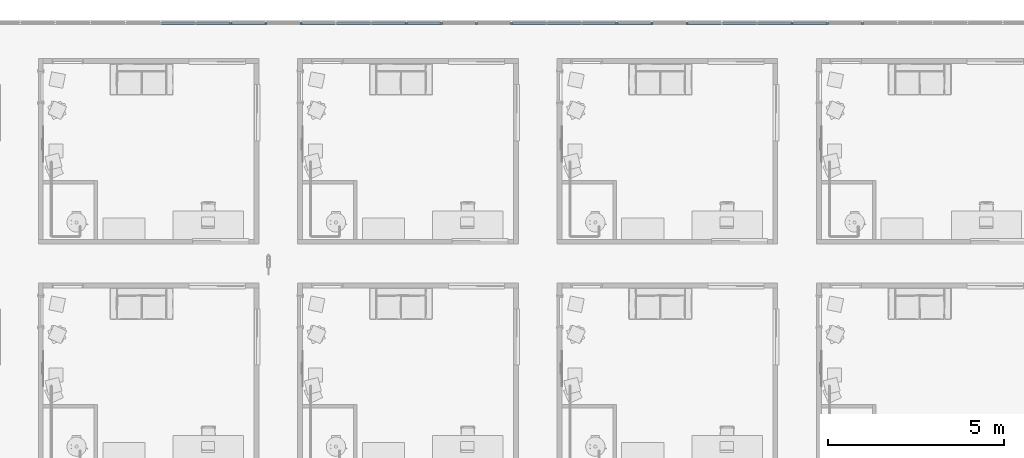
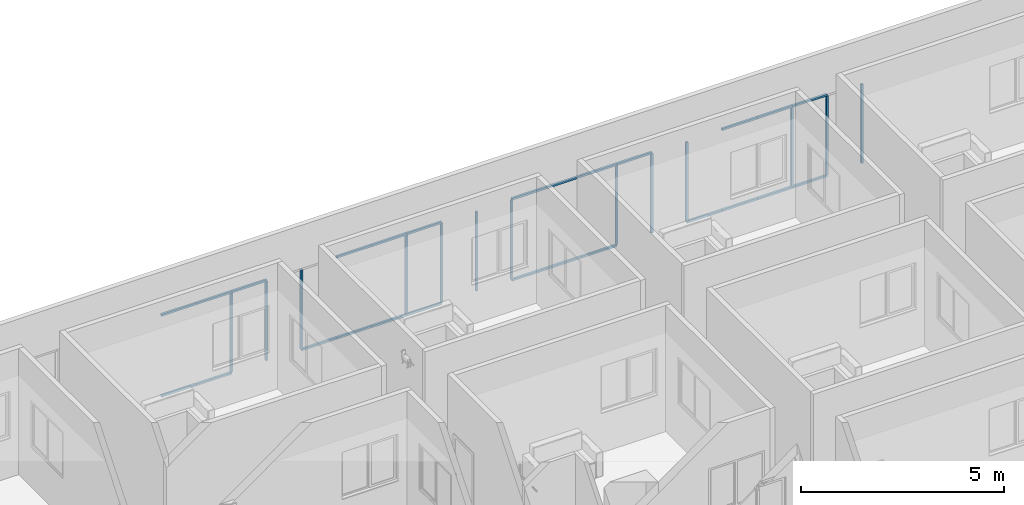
# One storey, part 3 of 69: 39 members, 1 element without a shape of its own.
"""IFC4 building model written with IfcOpenShell, lengths in centimetres."""

from ifc_helpers import new_model, entity, si_unit, converted_unit, derived_unit, direction, frame, origin, place, context, subcontext, project, spatial, indexed_curve, outline, extrude, source, transform, mapped, material, type_object, type_shapes, element, aggregate, save


model = new_model("IFC4")

# Units and contexts
model_context = context("Model", 3, precision=0.001, world=origin(), true_north=direction((6.123233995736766e-17, 1.0)))
body_context = subcontext(model_context, "Body", "Model", "MODEL_VIEW")
ifc_project = project(units=[si_unit("LENGTHUNIT", "METRE", prefix="CENTI"), si_unit("AREAUNIT", "SQUARE_METRE"), si_unit("VOLUMEUNIT", "CUBIC_METRE"), derived_unit("THERMALTRANSMITTANCEUNIT", [(si_unit("MASSUNIT", "GRAM", prefix="KILO"), 1), (si_unit("THERMODYNAMICTEMPERATUREUNIT", "KELVIN"), -1), (si_unit("TIMEUNIT", "SECOND"), -3)]), converted_unit("PLANEANGLEUNIT", "DEGREE", entity("IfcPlaneAngleMeasure", 0.017453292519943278), si_unit("PLANEANGLEUNIT", "RADIAN"), dimensions=[0, 0, 0, 0, 0, 0, 0]), derived_unit("MASSDENSITYUNIT", [(si_unit("MASSUNIT", "GRAM", prefix="KILO"), 1), (si_unit("LENGTHUNIT", "METRE"), -3)]), derived_unit("VAPORPERMEABILITYUNIT", [(si_unit("LENGTHUNIT", "METRE"), -1), (si_unit("TIMEUNIT", "SECOND"), 1)]), derived_unit("USERDEFINED", [(si_unit("MASSUNIT", "GRAM", prefix="KILO"), 1), (si_unit("TIMEUNIT", "SECOND"), -3), (si_unit("LENGTHUNIT", "METRE"), 3), (si_unit("ELECTRICCURRENTUNIT", "AMPERE"), -2)]), derived_unit("SPECIFICHEATCAPACITYUNIT", [(si_unit("THERMODYNAMICTEMPERATUREUNIT", "KELVIN"), -1), (si_unit("LENGTHUNIT", "METRE"), 2), (si_unit("TIMEUNIT", "SECOND"), -2)]), derived_unit("THERMALCONDUCTANCEUNIT", [(si_unit("MASSUNIT", "GRAM", prefix="KILO"), 1), (si_unit("THERMODYNAMICTEMPERATUREUNIT", "KELVIN"), -1), (si_unit("TIMEUNIT", "SECOND"), -3), (si_unit("LENGTHUNIT", "METRE"), 1)]), si_unit("PRESSUREUNIT", "PASCAL"), derived_unit("MODULUSOFELASTICITYUNIT", [(si_unit("MASSUNIT", "GRAM", prefix="KILO"), 1), (si_unit("LENGTHUNIT", "METRE"), -1), (si_unit("TIMEUNIT", "SECOND"), -2)]), derived_unit("THERMALEXPANSIONCOEFFICIENTUNIT", [(si_unit("THERMODYNAMICTEMPERATUREUNIT", "KELVIN"), -1)])], contexts=[model_context])

# Site, building, storey
site_placement = place(None, origin())
site = spatial("IfcSite", under=ifc_project, at=site_placement, Name="Default", CompositionType="ELEMENT")
building_placement = place(site_placement, origin())
building = spatial("IfcBuilding", under=site, at=building_placement, Name="IDS Escape Game Building", CompositionType="ELEMENT")
storey_placement = place(building_placement, origin())
storey = spatial("IfcBuildingStorey", under=building, at=storey_placement, Name="00_Ground Floor", CompositionType="ELEMENT", Elevation=0.0)

# Curtain wall, members
curtain_wall_type = type_object("IfcCurtainWallType", Name="Curtain Wall:ARC_31.3_CWA_LIB_bandraam vast 100cm - profiel 60x60_gen_BERSnl", PredefinedType="NOTDEFINED")
curtain_wall_placement = place(storey_placement, origin())
curtain_wall = element("IfcCurtainWall", 1, at=curtain_wall_placement, inside=storey, type_object=curtain_wall_type, Name="Curtain Wall:ARC_31.3_CWA_LIB_bandraam vast 100cm - profiel 60x60_gen_BERSnl", ObjectType="Curtain Wall:ARC_31.3_CWA_LIB_bandraam vast 100cm - profiel 60x60_gen_BERSnl", PredefinedType="NOTDEFINED")
ifc_material = material(Name="<Unnamed>")
member_type_1 = type_object("IfcMemberType", Name="Rectangular Mullion:30-_Stijl_Rechthoek_Midden_B60xD60", PredefinedType="MULLION", material=ifc_material)
shared_shape_1 = source(origin(), body_context, "Body", "SweptSolid", [
    extrude(outline(indexed_curve([(-3.0, -3.0), (3.0, -3.0), (3.0, 3.0), (-3.0, 3.0), (-3.0, -3.0)], self_intersect=False)), frame((-3.0, 3.0, -99.84313725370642), z_axis=(0.0, 0.0, 1.0), x_axis=(-1.0, 0.0, 0.0)), (0.0, 0.0, 1.0), 99.84313725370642),
])
type_shapes(member_type_1, [shared_shape_1])
member_1_placement = place(curtain_wall_placement, frame((1916.8627451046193, 3182.0, 250.0), z_axis=(1.0, 0.0, 0.0), x_axis=(0.0, 0.0, 1.0)))
member_1 = element("IfcMember", 2, at=member_1_placement, type_object=member_type_1, material=ifc_material, Name="Rectangular Mullion:30-_Stijl_Rechthoek_Midden_B60xD60", ObjectType="Rectangular Mullion:30-_Stijl_Rechthoek_Midden_B60xD60", PredefinedType="MULLION", context=body_context, shape_type="MappedRepresentation", body=[
    mapped(shared_shape_1, transform((0.0, 0.0, 0.0), scale=1.0)),
])
member_2_placement = place(curtain_wall_placement, frame((2016.7058823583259, 3182.0, 250.0), z_axis=(1.0, 0.0, 0.0), x_axis=(0.0, 0.0, 1.0)))
member_2 = element("IfcMember", 3, at=member_2_placement, type_object=member_type_1, material=ifc_material, Name="Rectangular Mullion:30-_Stijl_Rechthoek_Midden_B60xD60", ObjectType="Rectangular Mullion:30-_Stijl_Rechthoek_Midden_B60xD60", PredefinedType="MULLION", context=body_context, shape_type="MappedRepresentation", body=[
    mapped(shared_shape_1, transform((0.0, 0.0, 0.0), scale=1.0)),
])
member_3_placement = place(curtain_wall_placement, frame((2116.549019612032, 3182.0, 250.0), z_axis=(1.0, 0.0, 0.0), x_axis=(0.0, 0.0, 1.0)))
member_3 = element("IfcMember", 4, at=member_3_placement, type_object=member_type_1, material=ifc_material, Name="Rectangular Mullion:30-_Stijl_Rechthoek_Midden_B60xD60", ObjectType="Rectangular Mullion:30-_Stijl_Rechthoek_Midden_B60xD60", PredefinedType="MULLION", context=body_context, shape_type="MappedRepresentation", body=[
    mapped(shared_shape_1, transform((0.0, 0.0, 0.0), scale=1.0)),
])
member_4_placement = place(curtain_wall_placement, frame((2416.0784313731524, 3182.0, 250.0), z_axis=(1.0, 0.0, 0.0), x_axis=(0.0, 0.0, 1.0)))
member_4 = element("IfcMember", 5, at=member_4_placement, type_object=member_type_1, material=ifc_material, Name="Rectangular Mullion:30-_Stijl_Rechthoek_Midden_B60xD60", ObjectType="Rectangular Mullion:30-_Stijl_Rechthoek_Midden_B60xD60", PredefinedType="MULLION", context=body_context, shape_type="MappedRepresentation", body=[
    mapped(shared_shape_1, transform((0.0, 0.0, 0.0), scale=1.0)),
])
member_5_placement = place(curtain_wall_placement, frame((2515.9215686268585, 3182.0, 250.0), z_axis=(1.0, 0.0, 0.0), x_axis=(0.0, 0.0, 1.0)))
member_5 = element("IfcMember", 6, at=member_5_placement, type_object=member_type_1, material=ifc_material, Name="Rectangular Mullion:30-_Stijl_Rechthoek_Midden_B60xD60", ObjectType="Rectangular Mullion:30-_Stijl_Rechthoek_Midden_B60xD60", PredefinedType="MULLION", context=body_context, shape_type="MappedRepresentation", body=[
    mapped(shared_shape_1, transform((0.0, 0.0, 0.0), scale=1.0)),
])
member_6_placement = place(curtain_wall_placement, frame((2615.764705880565, 3182.0, 250.0), z_axis=(1.0, 0.0, 0.0), x_axis=(0.0, 0.0, 1.0)))
member_6 = element("IfcMember", 7, at=member_6_placement, type_object=member_type_1, material=ifc_material, Name="Rectangular Mullion:30-_Stijl_Rechthoek_Midden_B60xD60", ObjectType="Rectangular Mullion:30-_Stijl_Rechthoek_Midden_B60xD60", PredefinedType="MULLION", context=body_context, shape_type="MappedRepresentation", body=[
    mapped(shared_shape_1, transform((0.0, 0.0, 0.0), scale=1.0)),
])
member_7_placement = place(curtain_wall_placement, frame((2915.294117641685, 3182.0, 250.0), z_axis=(1.0, 0.0, 0.0), x_axis=(0.0, 0.0, 1.0)))
member_7 = element("IfcMember", 8, at=member_7_placement, type_object=member_type_1, material=ifc_material, Name="Rectangular Mullion:30-_Stijl_Rechthoek_Midden_B60xD60", ObjectType="Rectangular Mullion:30-_Stijl_Rechthoek_Midden_B60xD60", PredefinedType="MULLION", context=body_context, shape_type="MappedRepresentation", body=[
    mapped(shared_shape_1, transform((0.0, 0.0, 0.0), scale=1.0)),
])
member_8_placement = place(curtain_wall_placement, frame((3015.1372548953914, 3182.0, 250.0), z_axis=(1.0, 0.0, 0.0), x_axis=(0.0, 0.0, 1.0)))
member_8 = element("IfcMember", 9, at=member_8_placement, type_object=member_type_1, material=ifc_material, Name="Rectangular Mullion:30-_Stijl_Rechthoek_Midden_B60xD60", ObjectType="Rectangular Mullion:30-_Stijl_Rechthoek_Midden_B60xD60", PredefinedType="MULLION", context=body_context, shape_type="MappedRepresentation", body=[
    mapped(shared_shape_1, transform((0.0, 0.0, 0.0), scale=1.0)),
])
member_9_placement = place(curtain_wall_placement, frame((3114.9803921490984, 3182.0, 250.0), z_axis=(1.0, 0.0, 0.0), x_axis=(0.0, 0.0, 1.0)))
member_9 = element("IfcMember", 10, at=member_9_placement, type_object=member_type_1, material=ifc_material, Name="Rectangular Mullion:30-_Stijl_Rechthoek_Midden_B60xD60", ObjectType="Rectangular Mullion:30-_Stijl_Rechthoek_Midden_B60xD60", PredefinedType="MULLION", context=body_context, shape_type="MappedRepresentation", body=[
    mapped(shared_shape_1, transform((0.0, 0.0, 0.0), scale=1.0)),
])
member_10_placement = place(curtain_wall_placement, frame((3214.8235294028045, 3182.0, 250.0), z_axis=(1.0, 0.0, 0.0), x_axis=(0.0, 0.0, 1.0)))
member_10 = element("IfcMember", 11, at=member_10_placement, type_object=member_type_1, material=ifc_material, Name="Rectangular Mullion:30-_Stijl_Rechthoek_Midden_B60xD60", ObjectType="Rectangular Mullion:30-_Stijl_Rechthoek_Midden_B60xD60", PredefinedType="MULLION", context=body_context, shape_type="MappedRepresentation", body=[
    mapped(shared_shape_1, transform((0.0, 0.0, 0.0), scale=1.0)),
])
member_11_placement = place(curtain_wall_placement, frame((3514.3529411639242, 3182.0, 250.0), z_axis=(1.0, 0.0, 0.0), x_axis=(0.0, 0.0, 1.0)))
member_11 = element("IfcMember", 12, at=member_11_placement, type_object=member_type_1, material=ifc_material, Name="Rectangular Mullion:30-_Stijl_Rechthoek_Midden_B60xD60", ObjectType="Rectangular Mullion:30-_Stijl_Rechthoek_Midden_B60xD60", PredefinedType="MULLION", context=body_context, shape_type="MappedRepresentation", body=[
    mapped(shared_shape_1, transform((0.0, 0.0, 0.0), scale=1.0)),
])
member_12_placement = place(curtain_wall_placement, frame((3614.196078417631, 3182.0, 250.0), z_axis=(1.0, 0.0, 0.0), x_axis=(0.0, 0.0, 1.0)))
member_12 = element("IfcMember", 13, at=member_12_placement, type_object=member_type_1, material=ifc_material, Name="Rectangular Mullion:30-_Stijl_Rechthoek_Midden_B60xD60", ObjectType="Rectangular Mullion:30-_Stijl_Rechthoek_Midden_B60xD60", PredefinedType="MULLION", context=body_context, shape_type="MappedRepresentation", body=[
    mapped(shared_shape_1, transform((0.0, 0.0, 0.0), scale=1.0)),
])
member_13_placement = place(curtain_wall_placement, frame((3714.0392156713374, 3182.0, 250.0), z_axis=(1.0, 0.0, 0.0), x_axis=(0.0, 0.0, 1.0)))
member_13 = element("IfcMember", 14, at=member_13_placement, type_object=member_type_1, material=ifc_material, Name="Rectangular Mullion:30-_Stijl_Rechthoek_Midden_B60xD60", ObjectType="Rectangular Mullion:30-_Stijl_Rechthoek_Midden_B60xD60", PredefinedType="MULLION", context=body_context, shape_type="MappedRepresentation", body=[
    mapped(shared_shape_1, transform((0.0, 0.0, 0.0), scale=1.0)),
])
member_type_2 = type_object("IfcMemberType", Name="Rectangular Mullion:30-_Stijl_Rechthoek_Midden_B60xD60", PredefinedType="MULLION", material=ifc_material)
shared_shape_2 = source(origin(), body_context, "Body", "SweptSolid", [
    extrude(outline(indexed_curve([(-3.0, -3.0), (3.0, -3.0), (3.0, 3.0), (-3.0, 3.0), (-3.0, -3.0)], self_intersect=False)), frame((-3.0, 3.0, -99.84313725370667), z_axis=(0.0, 0.0, 1.0), x_axis=(-1.0, 0.0, 0.0)), (0.0, 0.0, 1.0), 99.84313725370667),
])
type_shapes(member_type_2, [shared_shape_2])
member_14_placement = place(curtain_wall_placement, frame((1817.0196078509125, 3182.0, 0.0), z_axis=(-1.0, 0.0, 0.0), x_axis=(0.0, 0.0, -1.0)))
member_14 = element("IfcMember", 15, at=member_14_placement, type_object=member_type_2, material=ifc_material, Name="Rectangular Mullion:30-_Stijl_Rechthoek_Midden_B60xD60", ObjectType="Rectangular Mullion:30-_Stijl_Rechthoek_Midden_B60xD60", PredefinedType="MULLION", context=body_context, shape_type="MappedRepresentation", body=[
    mapped(shared_shape_2, transform((0.0, 0.0, 0.0), scale=1.0)),
])
member_15_placement = place(curtain_wall_placement, frame((1916.8627451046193, 3182.0, 0.0), z_axis=(-1.0, 0.0, 0.0), x_axis=(0.0, 0.0, -1.0)))
member_15 = element("IfcMember", 16, at=member_15_placement, type_object=member_type_2, material=ifc_material, Name="Rectangular Mullion:30-_Stijl_Rechthoek_Midden_B60xD60", ObjectType="Rectangular Mullion:30-_Stijl_Rechthoek_Midden_B60xD60", PredefinedType="MULLION", context=body_context, shape_type="MappedRepresentation", body=[
    mapped(shared_shape_2, transform((0.0, 0.0, 0.0), scale=1.0)),
])
member_16_placement = place(curtain_wall_placement, frame((2216.3921568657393, 3182.0, 0.0), z_axis=(-1.0, 0.0, 0.0), x_axis=(0.0, 0.0, -1.0)))
member_16 = element("IfcMember", 17, at=member_16_placement, type_object=member_type_2, material=ifc_material, Name="Rectangular Mullion:30-_Stijl_Rechthoek_Midden_B60xD60", ObjectType="Rectangular Mullion:30-_Stijl_Rechthoek_Midden_B60xD60", PredefinedType="MULLION", context=body_context, shape_type="MappedRepresentation", body=[
    mapped(shared_shape_2, transform((0.0, 0.0, 0.0), scale=1.0)),
])
member_17_placement = place(curtain_wall_placement, frame((2316.235294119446, 3182.0, 0.0), z_axis=(-1.0, 0.0, 0.0), x_axis=(0.0, 0.0, -1.0)))
member_17 = element("IfcMember", 18, at=member_17_placement, type_object=member_type_2, material=ifc_material, Name="Rectangular Mullion:30-_Stijl_Rechthoek_Midden_B60xD60", ObjectType="Rectangular Mullion:30-_Stijl_Rechthoek_Midden_B60xD60", PredefinedType="MULLION", context=body_context, shape_type="MappedRepresentation", body=[
    mapped(shared_shape_2, transform((0.0, 0.0, 0.0), scale=1.0)),
])
member_18_placement = place(curtain_wall_placement, frame((2416.0784313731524, 3182.0, 0.0), z_axis=(-1.0, 0.0, 0.0), x_axis=(0.0, 0.0, -1.0)))
member_18 = element("IfcMember", 19, at=member_18_placement, type_object=member_type_2, material=ifc_material, Name="Rectangular Mullion:30-_Stijl_Rechthoek_Midden_B60xD60", ObjectType="Rectangular Mullion:30-_Stijl_Rechthoek_Midden_B60xD60", PredefinedType="MULLION", context=body_context, shape_type="MappedRepresentation", body=[
    mapped(shared_shape_2, transform((0.0, 0.0, 0.0), scale=1.0)),
])
member_19_placement = place(curtain_wall_placement, frame((2515.9215686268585, 3182.0, 0.0), z_axis=(-1.0, 0.0, 0.0), x_axis=(0.0, 0.0, -1.0)))
member_19 = element("IfcMember", 20, at=member_19_placement, type_object=member_type_2, material=ifc_material, Name="Rectangular Mullion:30-_Stijl_Rechthoek_Midden_B60xD60", ObjectType="Rectangular Mullion:30-_Stijl_Rechthoek_Midden_B60xD60", PredefinedType="MULLION", context=body_context, shape_type="MappedRepresentation", body=[
    mapped(shared_shape_2, transform((0.0, 0.0, 0.0), scale=1.0)),
])
member_20_placement = place(curtain_wall_placement, frame((2815.4509803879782, 3182.0, 0.0), z_axis=(-1.0, 0.0, 0.0), x_axis=(0.0, 0.0, -1.0)))
member_20 = element("IfcMember", 21, at=member_20_placement, type_object=member_type_2, material=ifc_material, Name="Rectangular Mullion:30-_Stijl_Rechthoek_Midden_B60xD60", ObjectType="Rectangular Mullion:30-_Stijl_Rechthoek_Midden_B60xD60", PredefinedType="MULLION", context=body_context, shape_type="MappedRepresentation", body=[
    mapped(shared_shape_2, transform((0.0, 0.0, 0.0), scale=1.0)),
])
member_21_placement = place(curtain_wall_placement, frame((2915.294117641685, 3182.0, 0.0), z_axis=(-1.0, 0.0, 0.0), x_axis=(0.0, 0.0, -1.0)))
member_21 = element("IfcMember", 22, at=member_21_placement, type_object=member_type_2, material=ifc_material, Name="Rectangular Mullion:30-_Stijl_Rechthoek_Midden_B60xD60", ObjectType="Rectangular Mullion:30-_Stijl_Rechthoek_Midden_B60xD60", PredefinedType="MULLION", context=body_context, shape_type="MappedRepresentation", body=[
    mapped(shared_shape_2, transform((0.0, 0.0, 0.0), scale=1.0)),
])
member_22_placement = place(curtain_wall_placement, frame((3015.1372548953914, 3182.0, 0.0), z_axis=(-1.0, 0.0, 0.0), x_axis=(0.0, 0.0, -1.0)))
member_22 = element("IfcMember", 23, at=member_22_placement, type_object=member_type_2, material=ifc_material, Name="Rectangular Mullion:30-_Stijl_Rechthoek_Midden_B60xD60", ObjectType="Rectangular Mullion:30-_Stijl_Rechthoek_Midden_B60xD60", PredefinedType="MULLION", context=body_context, shape_type="MappedRepresentation", body=[
    mapped(shared_shape_2, transform((0.0, 0.0, 0.0), scale=1.0)),
])
member_23_placement = place(curtain_wall_placement, frame((3314.666666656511, 3182.0, 0.0), z_axis=(-1.0, 0.0, 0.0), x_axis=(0.0, 0.0, -1.0)))
member_23 = element("IfcMember", 24, at=member_23_placement, type_object=member_type_2, material=ifc_material, Name="Rectangular Mullion:30-_Stijl_Rechthoek_Midden_B60xD60", ObjectType="Rectangular Mullion:30-_Stijl_Rechthoek_Midden_B60xD60", PredefinedType="MULLION", context=body_context, shape_type="MappedRepresentation", body=[
    mapped(shared_shape_2, transform((0.0, 0.0, 0.0), scale=1.0)),
])
member_24_placement = place(curtain_wall_placement, frame((3414.5098039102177, 3182.0, 0.0), z_axis=(-1.0, 0.0, 0.0), x_axis=(0.0, 0.0, -1.0)))
member_24 = element("IfcMember", 25, at=member_24_placement, type_object=member_type_2, material=ifc_material, Name="Rectangular Mullion:30-_Stijl_Rechthoek_Midden_B60xD60", ObjectType="Rectangular Mullion:30-_Stijl_Rechthoek_Midden_B60xD60", PredefinedType="MULLION", context=body_context, shape_type="MappedRepresentation", body=[
    mapped(shared_shape_2, transform((0.0, 0.0, 0.0), scale=1.0)),
])
member_25_placement = place(curtain_wall_placement, frame((3514.3529411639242, 3182.0, 0.0), z_axis=(-1.0, 0.0, 0.0), x_axis=(0.0, 0.0, -1.0)))
member_25 = element("IfcMember", 26, at=member_25_placement, type_object=member_type_2, material=ifc_material, Name="Rectangular Mullion:30-_Stijl_Rechthoek_Midden_B60xD60", ObjectType="Rectangular Mullion:30-_Stijl_Rechthoek_Midden_B60xD60", PredefinedType="MULLION", context=body_context, shape_type="MappedRepresentation", body=[
    mapped(shared_shape_2, transform((0.0, 0.0, 0.0), scale=1.0)),
])
member_26_placement = place(curtain_wall_placement, frame((3614.196078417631, 3182.0, 0.0), z_axis=(-1.0, 0.0, 0.0), x_axis=(0.0, 0.0, -1.0)))
member_26 = element("IfcMember", 27, at=member_26_placement, type_object=member_type_2, material=ifc_material, Name="Rectangular Mullion:30-_Stijl_Rechthoek_Midden_B60xD60", ObjectType="Rectangular Mullion:30-_Stijl_Rechthoek_Midden_B60xD60", PredefinedType="MULLION", context=body_context, shape_type="MappedRepresentation", body=[
    mapped(shared_shape_2, transform((0.0, 0.0, 0.0), scale=1.0)),
])
member_type_3 = type_object("IfcMemberType", Name="Rectangular Mullion:30-_Stijl_Rechthoek_Midden_B60xD60", PredefinedType="MULLION", material=ifc_material)
shared_shape_3 = source(origin(), body_context, "Body", "SweptSolid", [
    extrude(outline(indexed_curve([(-3.0, -3.0), (3.0, -3.0), (3.0, 3.0), (-3.0, 3.0), (-3.0, -3.0)], self_intersect=False)), frame((0.0, 3.0, -238.0), z_axis=(0.0, 0.0, 1.0), x_axis=(-1.0, 0.0, 0.0)), (0.0, 0.0, 1.0), 238.00000000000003),
])
type_shapes(member_type_3, [shared_shape_3])
member_27_placement = place(curtain_wall_placement, frame((2016.7058823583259, 3182.0, 6.0), z_axis=(0.0, 0.0, -1.0), x_axis=(1.0, 0.0, 0.0)))
member_27 = element("IfcMember", 28, at=member_27_placement, type_object=member_type_3, material=ifc_material, Name="Rectangular Mullion:30-_Stijl_Rechthoek_Midden_B60xD60", ObjectType="Rectangular Mullion:30-_Stijl_Rechthoek_Midden_B60xD60", PredefinedType="MULLION", context=body_context, shape_type="MappedRepresentation", body=[
    mapped(shared_shape_3, transform((0.0, 0.0, 0.0), scale=1.0)),
])
member_28_placement = place(curtain_wall_placement, frame((2116.5490196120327, 3182.0, 6.0), z_axis=(0.0, 0.0, -1.0), x_axis=(1.0, 0.0, 0.0)))
member_28 = element("IfcMember", 29, at=member_28_placement, type_object=member_type_3, material=ifc_material, Name="Rectangular Mullion:30-_Stijl_Rechthoek_Midden_B60xD60", ObjectType="Rectangular Mullion:30-_Stijl_Rechthoek_Midden_B60xD60", PredefinedType="MULLION", context=body_context, shape_type="MappedRepresentation", body=[
    mapped(shared_shape_3, transform((0.0, 0.0, 0.0), scale=1.0)),
])
member_29_placement = place(curtain_wall_placement, frame((2216.3921568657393, 3182.0, 6.0), z_axis=(0.0, 0.0, -1.0), x_axis=(1.0, 0.0, 0.0)))
member_29 = element("IfcMember", 30, at=member_29_placement, type_object=member_type_3, material=ifc_material, Name="Rectangular Mullion:30-_Stijl_Rechthoek_Midden_B60xD60", ObjectType="Rectangular Mullion:30-_Stijl_Rechthoek_Midden_B60xD60", PredefinedType="MULLION", context=body_context, shape_type="MappedRepresentation", body=[
    mapped(shared_shape_3, transform((0.0, 0.0, 0.0), scale=1.0)),
])
member_30_placement = place(curtain_wall_placement, frame((2515.9215686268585, 3182.0, 6.0), z_axis=(0.0, 0.0, -1.0), x_axis=(1.0, 0.0, 0.0)))
member_30 = element("IfcMember", 31, at=member_30_placement, type_object=member_type_3, material=ifc_material, Name="Rectangular Mullion:30-_Stijl_Rechthoek_Midden_B60xD60", ObjectType="Rectangular Mullion:30-_Stijl_Rechthoek_Midden_B60xD60", PredefinedType="MULLION", context=body_context, shape_type="MappedRepresentation", body=[
    mapped(shared_shape_3, transform((0.0, 0.0, 0.0), scale=1.0)),
])
member_31_placement = place(curtain_wall_placement, frame((2615.764705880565, 3182.0, 6.0), z_axis=(0.0, 0.0, -1.0), x_axis=(1.0, 0.0, 0.0)))
member_31 = element("IfcMember", 32, at=member_31_placement, type_object=member_type_3, material=ifc_material, Name="Rectangular Mullion:30-_Stijl_Rechthoek_Midden_B60xD60", ObjectType="Rectangular Mullion:30-_Stijl_Rechthoek_Midden_B60xD60", PredefinedType="MULLION", context=body_context, shape_type="MappedRepresentation", body=[
    mapped(shared_shape_3, transform((0.0, 0.0, 0.0), scale=1.0)),
])
member_32_placement = place(curtain_wall_placement, frame((2715.6078431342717, 3182.0, 6.0), z_axis=(0.0, 0.0, -1.0), x_axis=(1.0, 0.0, 0.0)))
member_32 = element("IfcMember", 33, at=member_32_placement, type_object=member_type_3, material=ifc_material, Name="Rectangular Mullion:30-_Stijl_Rechthoek_Midden_B60xD60", ObjectType="Rectangular Mullion:30-_Stijl_Rechthoek_Midden_B60xD60", PredefinedType="MULLION", context=body_context, shape_type="MappedRepresentation", body=[
    mapped(shared_shape_3, transform((0.0, 0.0, 0.0), scale=1.0)),
])
member_33_placement = place(curtain_wall_placement, frame((2815.4509803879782, 3182.0, 6.0), z_axis=(0.0, 0.0, -1.0), x_axis=(1.0, 0.0, 0.0)))
member_33 = element("IfcMember", 34, at=member_33_placement, type_object=member_type_3, material=ifc_material, Name="Rectangular Mullion:30-_Stijl_Rechthoek_Midden_B60xD60", ObjectType="Rectangular Mullion:30-_Stijl_Rechthoek_Midden_B60xD60", PredefinedType="MULLION", context=body_context, shape_type="MappedRepresentation", body=[
    mapped(shared_shape_3, transform((0.0, 0.0, 0.0), scale=1.0)),
])
member_34_placement = place(curtain_wall_placement, frame((3114.980392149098, 3182.0, 6.0), z_axis=(0.0, 0.0, -1.0), x_axis=(1.0, 0.0, 0.0)))
member_34 = element("IfcMember", 35, at=member_34_placement, type_object=member_type_3, material=ifc_material, Name="Rectangular Mullion:30-_Stijl_Rechthoek_Midden_B60xD60", ObjectType="Rectangular Mullion:30-_Stijl_Rechthoek_Midden_B60xD60", PredefinedType="MULLION", context=body_context, shape_type="MappedRepresentation", body=[
    mapped(shared_shape_3, transform((0.0, 0.0, 0.0), scale=1.0)),
])
member_35_placement = place(curtain_wall_placement, frame((3214.8235294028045, 3182.0, 6.0), z_axis=(0.0, 0.0, -1.0), x_axis=(1.0, 0.0, 0.0)))
member_35 = element("IfcMember", 36, at=member_35_placement, type_object=member_type_3, material=ifc_material, Name="Rectangular Mullion:30-_Stijl_Rechthoek_Midden_B60xD60", ObjectType="Rectangular Mullion:30-_Stijl_Rechthoek_Midden_B60xD60", PredefinedType="MULLION", context=body_context, shape_type="MappedRepresentation", body=[
    mapped(shared_shape_3, transform((0.0, 0.0, 0.0), scale=1.0)),
])
member_36_placement = place(curtain_wall_placement, frame((3314.666666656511, 3182.0, 6.0), z_axis=(0.0, 0.0, -1.0), x_axis=(1.0, 0.0, 0.0)))
member_36 = element("IfcMember", 37, at=member_36_placement, type_object=member_type_3, material=ifc_material, Name="Rectangular Mullion:30-_Stijl_Rechthoek_Midden_B60xD60", ObjectType="Rectangular Mullion:30-_Stijl_Rechthoek_Midden_B60xD60", PredefinedType="MULLION", context=body_context, shape_type="MappedRepresentation", body=[
    mapped(shared_shape_3, transform((0.0, 0.0, 0.0), scale=1.0)),
])
member_37_placement = place(curtain_wall_placement, frame((3614.196078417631, 3182.0, 6.0), z_axis=(0.0, 0.0, -1.0), x_axis=(1.0, 0.0, 0.0)))
member_37 = element("IfcMember", 38, at=member_37_placement, type_object=member_type_3, material=ifc_material, Name="Rectangular Mullion:30-_Stijl_Rechthoek_Midden_B60xD60", ObjectType="Rectangular Mullion:30-_Stijl_Rechthoek_Midden_B60xD60", PredefinedType="MULLION", context=body_context, shape_type="MappedRepresentation", body=[
    mapped(shared_shape_3, transform((0.0, 0.0, 0.0), scale=1.0)),
])
member_38_placement = place(curtain_wall_placement, frame((3714.0392156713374, 3182.0, 6.0), z_axis=(0.0, 0.0, -1.0), x_axis=(1.0, 0.0, 0.0)))
member_38 = element("IfcMember", 39, at=member_38_placement, type_object=member_type_3, material=ifc_material, Name="Rectangular Mullion:30-_Stijl_Rechthoek_Midden_B60xD60", ObjectType="Rectangular Mullion:30-_Stijl_Rechthoek_Midden_B60xD60", PredefinedType="MULLION", context=body_context, shape_type="MappedRepresentation", body=[
    mapped(shared_shape_3, transform((0.0, 0.0, 0.0), scale=1.0)),
])
member_39_placement = place(curtain_wall_placement, frame((3813.882352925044, 3182.0, 6.0), z_axis=(0.0, 0.0, -1.0), x_axis=(1.0, 0.0, 0.0)))
member_39 = element("IfcMember", 40, at=member_39_placement, type_object=member_type_3, material=ifc_material, Name="Rectangular Mullion:30-_Stijl_Rechthoek_Midden_B60xD60", ObjectType="Rectangular Mullion:30-_Stijl_Rechthoek_Midden_B60xD60", PredefinedType="MULLION", context=body_context, shape_type="MappedRepresentation", body=[
    mapped(shared_shape_3, transform((0.0, 0.0, 0.0), scale=1.0)),
])
aggregate(curtain_wall, [member_1, member_2, member_3, member_4, member_5, member_6, member_7, member_8, member_9, member_10, member_11, member_12, member_13, member_14, member_15, member_16, member_17, member_18, member_19, member_20, member_21, member_22, member_23, member_24, member_25, member_26, member_27, member_28, member_29, member_30, member_31, member_32, member_33, member_34, member_35, member_36, member_37, member_38, member_39])

save(model, "model.ifc")
